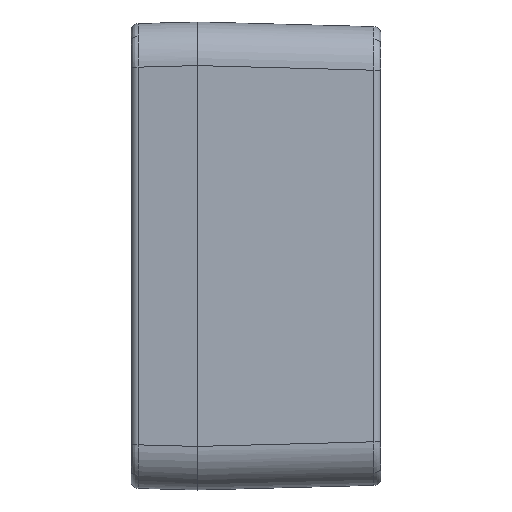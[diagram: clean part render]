
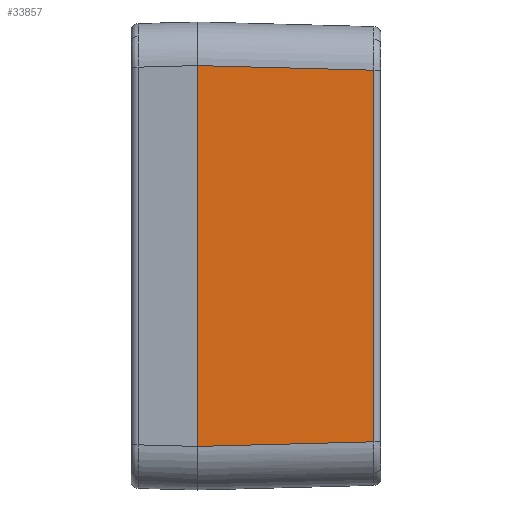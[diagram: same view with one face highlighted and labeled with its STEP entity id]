
A CAD part, left-side view. The second image highlights one B-rep face of the part: STEP entity #33857.
In plain terms, the highlighted planar face has unit normal (-1, -0.026, 0).
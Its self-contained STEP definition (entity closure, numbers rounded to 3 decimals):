
#4377=FACE_OUTER_BOUND('',#6333,.T.);
#6333=EDGE_LOOP('',(#22423,#22424,#22425,#22426));
#8551=LINE('',#49695,#10897);
#8560=LINE('',#49773,#10906);
#8561=LINE('',#49777,#10907);
#8562=LINE('',#49778,#10908);
#10897=VECTOR('',#39307,51.135);
#10906=VECTOR('',#39332,24.243);
#10907=VECTOR('',#39337,24.243);
#10908=VECTOR('',#39338,52.404);
#13109=VERTEX_POINT('',#45871);
#13617=VERTEX_POINT('',#49693);
#13623=VERTEX_POINT('',#49772);
#13624=VERTEX_POINT('',#49776);
#17029=EDGE_CURVE('',#13617,#13109,#8551,.T.);
#17041=EDGE_CURVE('',#13109,#13623,#8560,.T.);
#17043=EDGE_CURVE('',#13624,#13617,#8561,.T.);
#17044=EDGE_CURVE('',#13624,#13623,#8562,.T.);
#22423=ORIENTED_EDGE('',*,*,#17043,.T.);
#22424=ORIENTED_EDGE('',*,*,#17029,.T.);
#22425=ORIENTED_EDGE('',*,*,#17041,.T.);
#22426=ORIENTED_EDGE('',*,*,#17044,.F.);
#31202=PLANE('',#36097);
#33857=ADVANCED_FACE('',(#4377),#31202,.T.);
#36097=AXIS2_PLACEMENT_3D('',#49775,#39335,#39336);
#39307=DIRECTION('',(0.,0.,1.));
#39332=DIRECTION('',(-0.026,0.999,0.026));
#39335=DIRECTION('center_axis',(-1.,-0.026,
0.));
#39336=DIRECTION('ref_axis',(0.,0.,
1.));
#39337=DIRECTION('',(0.026,-0.999,0.026));
#39338=DIRECTION('',(0.,0.,1.));
#45871=CARTESIAN_POINT('',(-68.248,-17.082,25.568));
#49693=CARTESIAN_POINT('',(-68.248,-17.082,-25.568));
#49695=CARTESIAN_POINT('',(-68.248,-17.082,-25.568));
#49772=CARTESIAN_POINT('',(-68.882,7.144,26.202));
#49773=CARTESIAN_POINT('',(-68.248,-17.082,25.568));
#49775=CARTESIAN_POINT('Origin',(-68.882,7.144,-32.2));
#49776=CARTESIAN_POINT('',(-68.882,7.144,-26.202));
#49777=CARTESIAN_POINT('',(-68.882,7.144,-26.202));
#49778=CARTESIAN_POINT('',(-68.882,7.144,-26.202));
